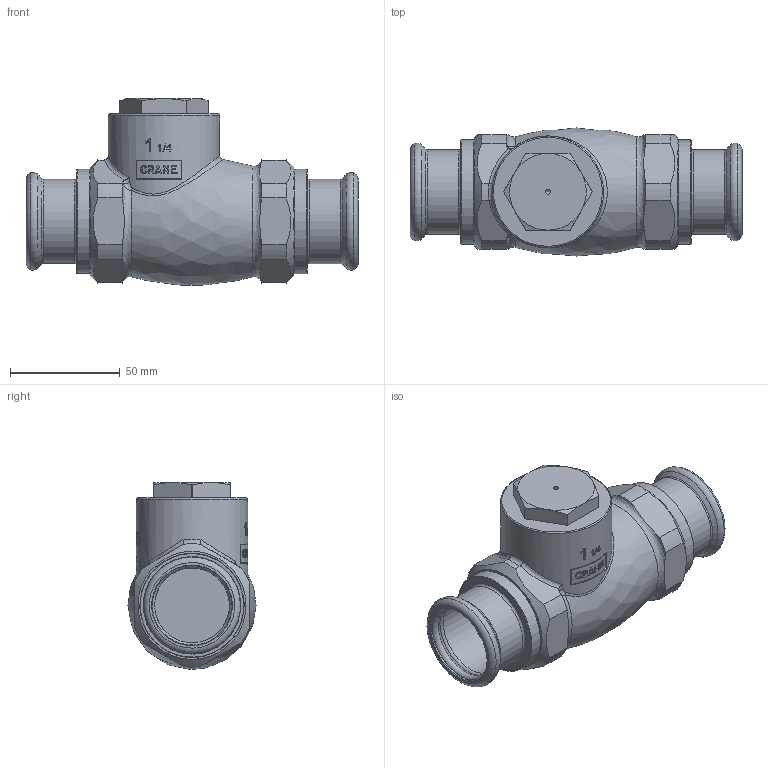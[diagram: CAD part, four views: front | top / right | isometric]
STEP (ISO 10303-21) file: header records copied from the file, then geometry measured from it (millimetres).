
FILE_DESCRIPTION((''),'2;1');
FILE_NAME('P:\Fastrack\53972_CRANE 3D\Push Fit\145840-35mm.stp','2011-08-23T12:26:59',('btaylor'),(''),'Autodesk Inventor 2008','Autodesk Inventor 2008','');
FILE_SCHEMA(('AUTOMOTIVE_DESIGN { 1 0 10303 214 1 1 1 1 }'));
Length unit declared in the file: millimetre
Products named in the file (1): 145840-35mm
Bounding box: 151.4 x 58.4 x 85.2 mm (x, y, z)
Volume: 252400.5 mm3; surface area: 59573 mm2
Topology: 1 solids, 4 shells, 471 faces, 1261 edges, 826 vertices
Faces by surface type: bspline 220, plane 137, cylinder 64, cone 40, torus 9, sphere 1
Full cylindrical faces by diameter (mm): 2.2 x1, 35.3 x2, 36.2 x2, 37 x1, 38.5 x2, 47.6 x2, 50.7 x1
Entity records: 52897 total; most frequent: CARTESIAN_POINT 43009, ORIENTED_EDGE 2382, DIRECTION 1345, EDGE_CURVE 1191, VERTEX_POINT 812, EDGE_LOOP 557, B_SPLINE_CURVE_WITH_KNOTS 522, AXIS2_PLACEMENT_3D 472
